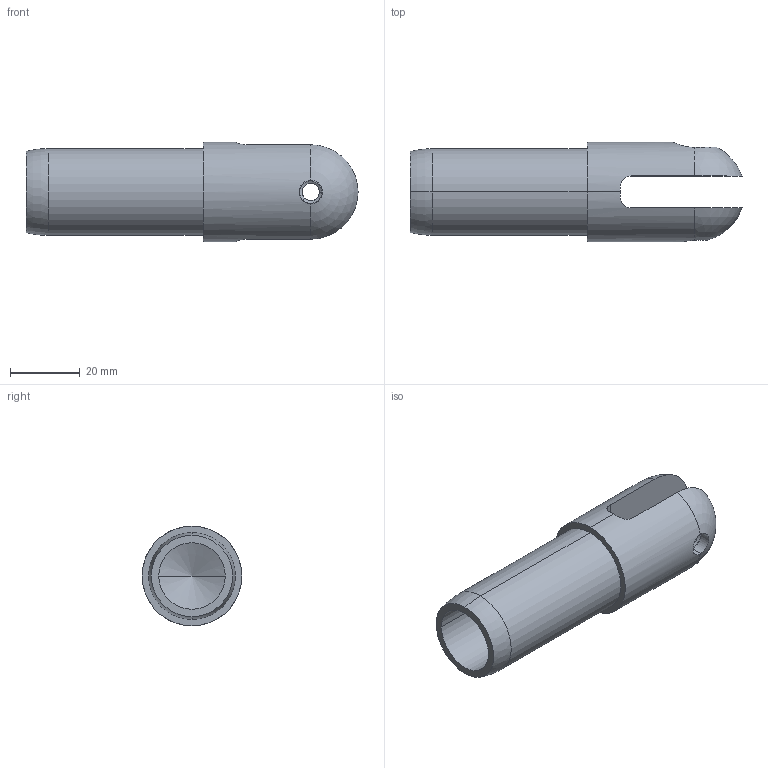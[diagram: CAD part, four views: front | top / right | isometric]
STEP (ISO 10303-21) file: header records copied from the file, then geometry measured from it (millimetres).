
FILE_DESCRIPTION (( 'STEP AP214' ), '1' );
FILE_NAME ('DRP-002-0510-00.STEP', '2013-12-20T16:47:30', ( 'ydmin' ), ( 'Microsoft' ), 'SwSTEP 2.0', 'SolidWorks 2013', '' );
FILE_SCHEMA (( 'AUTOMOTIVE_DESIGN' ));
Length unit declared in the file: inch
Products named in the file (1): DRP-002-0510-00
Bounding box: 95.22 x 28.57 x 28.57 mm (x, y, z)
Volume: 26353.9 mm3; surface area: 13482.8 mm2
Topology: 2 solids, 2 shells, 35 faces, 85 edges, 53 vertices
Faces by surface type: cylinder 13, plane 8, bspline 8, torus 2, cone 2, sphere 2
Entity records: 3138 total; most frequent: CARTESIAN_POINT 1850, ORIENTED_EDGE 166, DIRECTION 158, EDGE_CURVE 83, AXIS2_PLACEMENT_3D 61, VERTEX_POINT 53, EDGE_LOOP 40, LENGTH_MEASURE_WITH_UNIT 39
